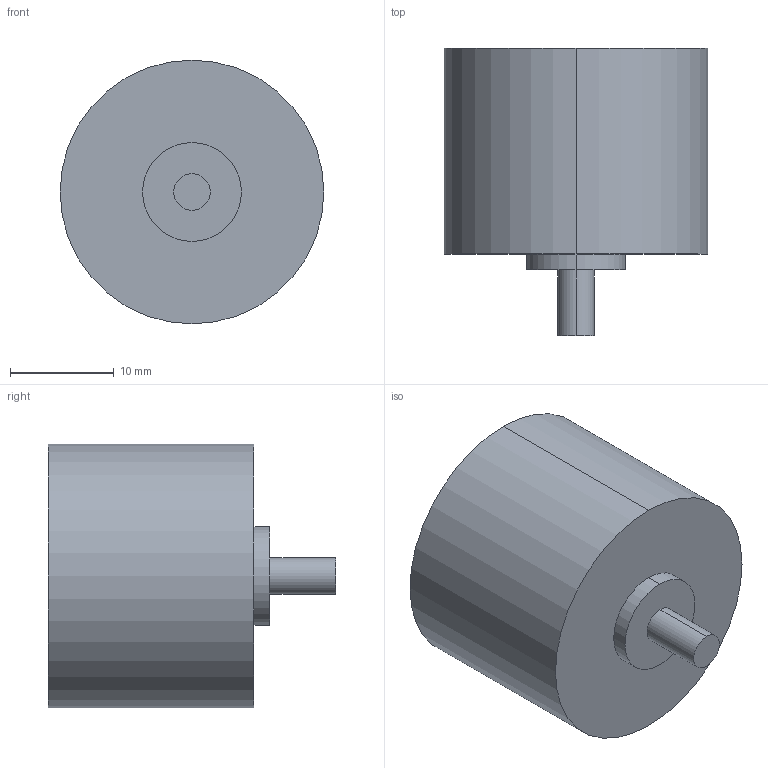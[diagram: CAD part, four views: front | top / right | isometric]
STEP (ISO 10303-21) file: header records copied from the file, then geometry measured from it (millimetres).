
FILE_DESCRIPTION (( 'STEP AP214' ), '1' );
FILE_NAME ('SS1432-2KG-M-F.STEP', '2024-09-04T16:17:36', ( '' ), ( '' ), 'SwSTEP 2.0', 'SolidWorks 2008', '' );
FILE_SCHEMA (( 'AUTOMOTIVE_DESIGN' ));
Length unit declared in the file: inch
Products named in the file (1): SS1432-2KG-M-F
Bounding box: 25.4 x 27.69 x 25.4 mm (x, y, z)
Volume: 10183.8 mm3; surface area: 2745.4 mm2
Topology: 1 solids, 1 shells, 14 faces, 28 edges, 17 vertices
Faces by surface type: cylinder 8, plane 4, cone 2
Entity records: 411 total; most frequent: DIRECTION 72, CARTESIAN_POINT 58, ORIENTED_EDGE 52, AXIS2_PLACEMENT_3D 31, EDGE_CURVE 26, VERTEX_POINT 17, EDGE_LOOP 17, CIRCLE 16
